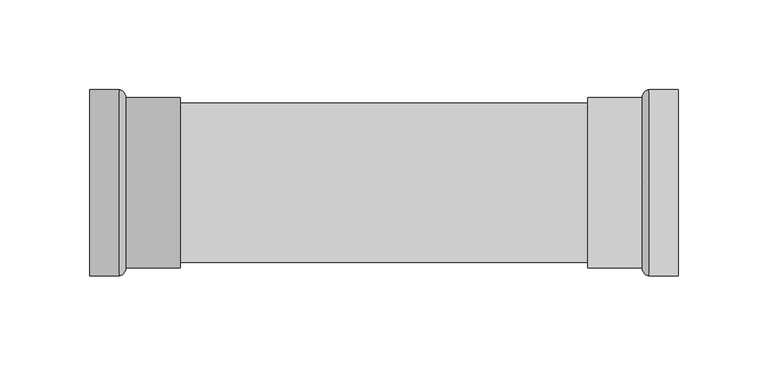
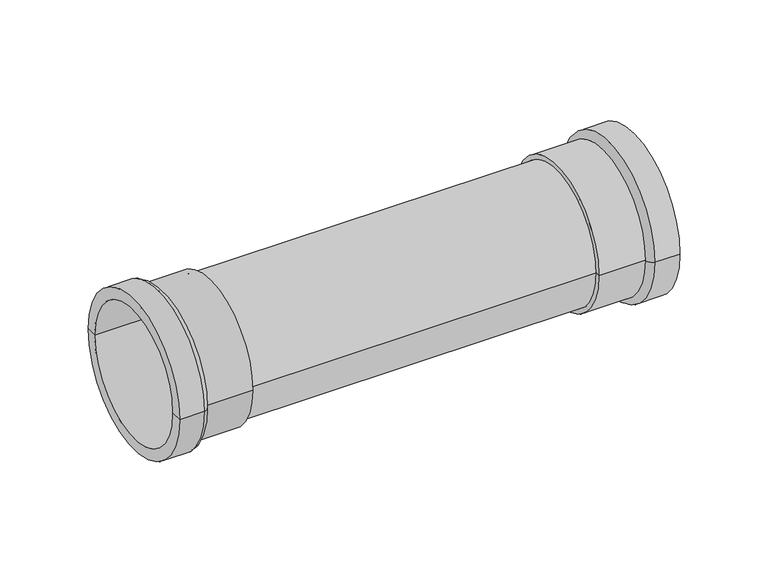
"""IFC4 building model written with IfcOpenShell, lengths in millimetres: pipe fitting geometry, VALTEC_VTi.903.I_Соединитель прямой нержавеющая сталь : VTi.903.I."""

from ifc_helpers import new_model, si_unit, point, frame, origin, origin_2d, place, context, project, spatial, polyline, circle_curve, ellipse_curve, trimmed, segment, composite_curve, outline, extrude, source, transform, mapped, element, save
from ifc_brep_helpers import plane_surface, cylinder_surface, revolved_surface, advanced_brep


def pipe_fitting_5d116bca(model_context):
    return source(origin(), model_context, "Body", "SolidModel", [
        advanced_brep(
        [(0.0, -44.45, 0.0), (0.0, 44.45, 0.0), (0.0, 52.0, 0.0), (0.0, -52.0, 0.0), (50.5, -44.45, 0.0), (50.5, 44.45, 0.0), (50.5, -47.5, 0.0), (50.5, 47.5, 0.0), (20.11, -47.5, 0.0), (20.11, 47.5, 0.0), (16.4, -52.0, 0.0), (16.4, 52.0, 0.0)],
        [
            (0, 1, circle_curve(frame((0.0, 0.0, 0.0), z_axis=(1.0, 0.0, 0.0), x_axis=(0.0, 1.0, 0.0)), 44.45)),
            (1, 2),
            (2, 3, circle_curve(frame((0.0, 0.0, 0.0), z_axis=(-1.0, 0.0, 0.0), x_axis=(0.0, 1.0, 0.0)), 52.0)),
            (3, 0),
            (1, 0, circle_curve(frame((0.0, 0.0, 0.0), z_axis=(1.0, 0.0, 0.0), x_axis=(0.0, 1.0, 0.0)), 44.45)),
            (3, 2, circle_curve(frame((0.0, 0.0, 0.0), z_axis=(-1.0, 0.0, 0.0), x_axis=(0.0, 1.0, 0.0)), 52.0)),
            (4, 5, circle_curve(frame((50.5, 0.0, 0.0), z_axis=(1.0, 0.0, 0.0), x_axis=(0.0, 1.0, 0.0)), 44.45)),
            (5, 1),
            (0, 4),
            (5, 4, circle_curve(frame((50.5, 0.0, 0.0), z_axis=(1.0, 0.0, 0.0), x_axis=(0.0, 1.0, 0.0)), 44.45)),
            (6, 7, circle_curve(frame((50.5, 0.0, 0.0), z_axis=(1.0, 0.0, 0.0), x_axis=(0.0, 1.0, 0.0)), 47.5)),
            (7, 5),
            (4, 6),
            (7, 6, circle_curve(frame((50.5, 0.0, 0.0), z_axis=(1.0, 0.0, 0.0), x_axis=(0.0, 1.0, 0.0)), 47.5)),
            (8, 9, circle_curve(frame((20.11, 0.0, 0.0), z_axis=(1.0, 0.0, 0.0), x_axis=(0.0, 1.0, 0.0)), 47.5)),
            (9, 7),
            (6, 8),
            (9, 8, circle_curve(frame((20.11, 0.0, 0.0), z_axis=(1.0, 0.0, 0.0), x_axis=(0.0, 1.0, 0.0)), 47.5)),
            (10, 11, circle_curve(frame((16.4, 0.0, 0.0), z_axis=(1.0, 0.0, 0.0), x_axis=(0.0, 1.0, 0.0)), 52.0)),
            (11, 9, circle_curve(frame((15.662157, 47.612345, 0.0), z_axis=(0.0, 0.0, -1.0), x_axis=(1.0, 0.0, 0.0)), 4.4492616)),
            (8, 10, circle_curve(frame((15.662157, -47.612345, 0.0), z_axis=(0.0, 0.0, -1.0), x_axis=(1.0, 0.0, 0.0)), 4.4492616)),
            (11, 10, circle_curve(frame((16.4, 0.0, 0.0), z_axis=(1.0, 0.0, 0.0), x_axis=(0.0, 1.0, 0.0)), 52.0)),
            (2, 11),
            (10, 3),
        ],
        [
            plane_surface(frame((0.0, 0.0, 0.0), z_axis=(-1.0, 0.0, 0.0), x_axis=(0.0, 1.0, 0.0))),
            revolved_surface(polyline([(0.0, 44.45, 0.0), (50.5, 44.45, 0.0)]), (29.7093608, 0.0, 0.0), (-1.0, 0.0, 0.0)),
            plane_surface(frame((50.5, 0.0, 0.0), z_axis=(1.0, 0.0, 0.0), x_axis=(0.0, 1.0, 0.0))),
            cylinder_surface(frame((29.7093608, 0.0, 0.0), z_axis=(-1.0, 0.0, 0.0), x_axis=(0.0, 1.0, 0.0)), 47.5),
            revolved_surface(trimmed(ellipse_curve(frame((15.662157, 47.612345, 0.0), z_axis=(0.0, 0.0, 1.0), x_axis=(1.0, 0.0, 0.0)), 4.4492616, 4.4492616), [point((20.11, 47.5, 0.0))], [point((16.4, 52.0, 0.0))], True, "CARTESIAN"), (29.7093608, 0.0, 0.0), (-1.0, 0.0, 0.0)),
            cylinder_surface(frame((29.7093608, 0.0, 0.0), z_axis=(-1.0, 0.0, 0.0), x_axis=(0.0, 1.0, 0.0)), 52.0),
        ],
        [
            (0, [[1, 2, 3, 4]]),
            (0, [[5, -4, 6, -2]]),
            (1, [[7, 8, -1, 9]]),
            (1, [[10, -9, -5, -8]]),
            (2, [[11, 12, -7, 13]]),
            (2, [[14, -13, -10, -12]]),
            (3, [[15, 16, -11, 17]]),
            (3, [[18, -17, -14, -16]]),
            (4, [[19, 20, -15, 21]]),
            (4, [[22, -21, -18, -20]]),
            (5, [[-3, 23, -19, 24]]),
            (5, [[-6, -24, -22, -23]]),
        ],
    ),
        advanced_brep(
        [(328.0, 44.45, 0.0), (328.0, -44.45, 0.0), (328.0, -52.0, 0.0), (328.0, 52.0, 0.0), (277.5, 44.45, 0.0), (277.5, -44.45, 0.0), (277.5, 47.5, 0.0), (277.5, -47.5, 0.0), (307.89, 47.5, 0.0), (307.89, -47.5, 0.0), (311.6, 52.0, 0.0), (311.6, -52.0, 0.0)],
        [
            (0, 1, circle_curve(frame((328.0, 0.0, 0.0), z_axis=(-1.0, 0.0, 0.0), x_axis=(0.0, -1.0, 0.0)), 44.45)),
            (1, 2),
            (2, 3, circle_curve(frame((328.0, 0.0, 0.0), z_axis=(1.0, 0.0, 0.0), x_axis=(0.0, -1.0, 0.0)), 52.0)),
            (3, 0),
            (1, 0, circle_curve(frame((328.0, 0.0, 0.0), z_axis=(-1.0, 0.0, 0.0), x_axis=(0.0, -1.0, 0.0)), 44.45)),
            (3, 2, circle_curve(frame((328.0, 0.0, 0.0), z_axis=(1.0, 0.0, 0.0), x_axis=(0.0, -1.0, 0.0)), 52.0)),
            (4, 5, circle_curve(frame((277.5, 0.0, 0.0), z_axis=(-1.0, 0.0, 0.0), x_axis=(0.0, -1.0, 0.0)), 44.45)),
            (5, 1),
            (0, 4),
            (5, 4, circle_curve(frame((277.5, 0.0, 0.0), z_axis=(-1.0, 0.0, 0.0), x_axis=(0.0, -1.0, 0.0)), 44.45)),
            (6, 7, circle_curve(frame((277.5, 0.0, 0.0), z_axis=(-1.0, 0.0, 0.0), x_axis=(0.0, -1.0, 0.0)), 47.5)),
            (7, 5),
            (4, 6),
            (7, 6, circle_curve(frame((277.5, 0.0, 0.0), z_axis=(-1.0, 0.0, 0.0), x_axis=(0.0, -1.0, 0.0)), 47.5)),
            (8, 9, circle_curve(frame((307.89, 0.0, 0.0), z_axis=(-1.0, 0.0, 0.0), x_axis=(0.0, -1.0, 0.0)), 47.5)),
            (9, 7),
            (6, 8),
            (9, 8, circle_curve(frame((307.89, 0.0, 0.0), z_axis=(-1.0, 0.0, 0.0), x_axis=(0.0, -1.0, 0.0)), 47.5)),
            (10, 11, circle_curve(frame((311.6, 0.0, 0.0), z_axis=(-1.0, 0.0, 0.0), x_axis=(0.0, -1.0, 0.0)), 52.0)),
            (11, 9, circle_curve(frame((312.337843, -47.612345, 0.0), z_axis=(0.0, 0.0, -1.0), x_axis=(-1.0, 0.0, 0.0)), 4.4492616)),
            (8, 10, circle_curve(frame((312.337843, 47.612345, 0.0), z_axis=(0.0, 0.0, -1.0), x_axis=(-1.0, 0.0, 0.0)), 4.4492616)),
            (11, 10, circle_curve(frame((311.6, 0.0, 0.0), z_axis=(-1.0, 0.0, 0.0), x_axis=(0.0, -1.0, 0.0)), 52.0)),
            (2, 11),
            (10, 3),
        ],
        [
            plane_surface(frame((328.0, 0.0, 0.0), z_axis=(1.0, 0.0, 0.0), x_axis=(0.0, -1.0, 0.0))),
            revolved_surface(polyline([(328.0, -44.45, 0.0), (277.5, -44.45, 0.0)]), (298.2906392, 0.0, 0.0), (1.0, 0.0, 0.0)),
            plane_surface(frame((277.5, 0.0, 0.0), z_axis=(-1.0, 0.0, 0.0), x_axis=(0.0, -1.0, 0.0))),
            cylinder_surface(frame((298.2906392, 0.0, 0.0), z_axis=(1.0, 0.0, 0.0), x_axis=(0.0, -1.0, 0.0)), 47.5),
            revolved_surface(trimmed(ellipse_curve(frame((312.337843, -47.612345, 0.0), z_axis=(0.0, 0.0, 1.0), x_axis=(-1.0, 0.0, 0.0)), 4.4492616, 4.4492616), [point((307.89, -47.5, 0.0))], [point((311.6, -52.0, 0.0))], True, "CARTESIAN"), (298.2906392, 0.0, 0.0), (1.0, 0.0, 0.0)),
            cylinder_surface(frame((298.2906392, 0.0, 0.0), z_axis=(1.0, 0.0, 0.0), x_axis=(0.0, -1.0, 0.0)), 52.0),
        ],
        [
            (0, [[1, 2, 3, 4]]),
            (0, [[5, -4, 6, -2]]),
            (1, [[7, 8, -1, 9]]),
            (1, [[10, -9, -5, -8]]),
            (2, [[11, 12, -7, 13]]),
            (2, [[14, -13, -10, -12]]),
            (3, [[15, 16, -11, 17]]),
            (3, [[18, -17, -14, -16]]),
            (4, [[19, 20, -15, 21]]),
            (4, [[22, -21, -18, -20]]),
            (5, [[-3, 23, -19, 24]]),
            (5, [[-6, -24, -22, -23]]),
        ],
    ),
        extrude(outline(composite_curve([segment(trimmed(circle_curve(origin_2d(), 44.45), [point((-44.45, 0.0))], [point((44.45, 0.0))], False, "CARTESIAN"), True, "CONTINUOUS"), segment(trimmed(circle_curve(origin_2d(), 44.45), [point((44.45, 0.0))], [point((-44.45, 0.0))], False, "CARTESIAN"), True, "CONTINUOUS")], self_intersect=False)), frame((49.2, 0.0, 0.0), z_axis=(1.0, 0.0, 0.0), x_axis=(0.0, 1.0, 0.0)), (0.0, 0.0, 1.0), 229.6),
    ])


if __name__ == "__main__":
    model = new_model("IFC4")
    model_context = context("Model", 3, world=origin())
    ifc_project = project(units=[si_unit("LENGTHUNIT", "METRE", prefix="MILLI")], contexts=[model_context])
    site = spatial("IfcSite", under=ifc_project)
    building = spatial("IfcBuilding", under=site)
    placement = place(None, origin())
    pipe_fitting_shape = pipe_fitting_5d116bca(model_context)
    element("IfcPipeFitting", 1, ObjectType="VALTEC_VTi.903.I_Соединитель прямой нержавеющая сталь : VTi.903.I", at=placement, inside=building, context=model_context, shape_type="MappedRepresentation", body=[
        mapped(pipe_fitting_shape, transform((0.0, 0.0, 0.0), x_axis=(1.0, 0.0, 0.0), y_axis=(0.0, 1.0, 0.0), z_axis=(0.0, 0.0, 1.0))),
    ])
    save(model, "model.ifc")
